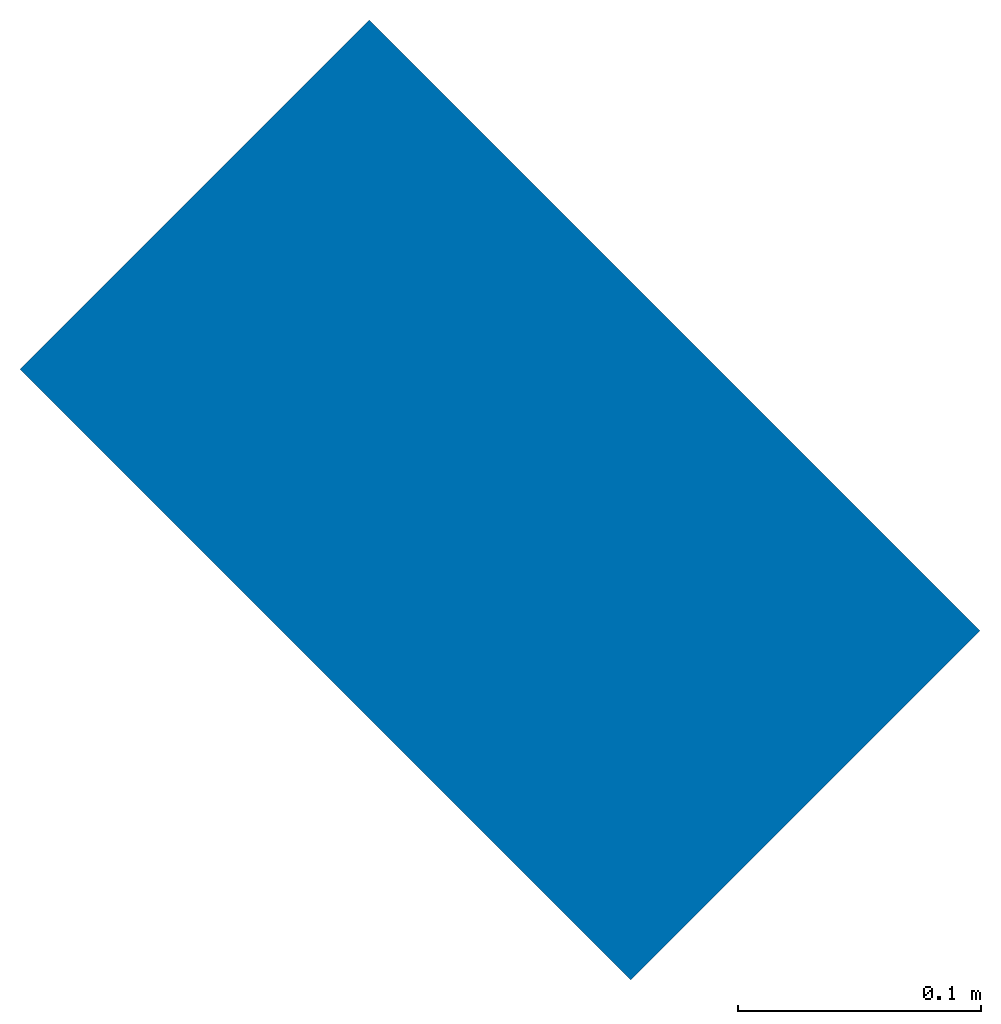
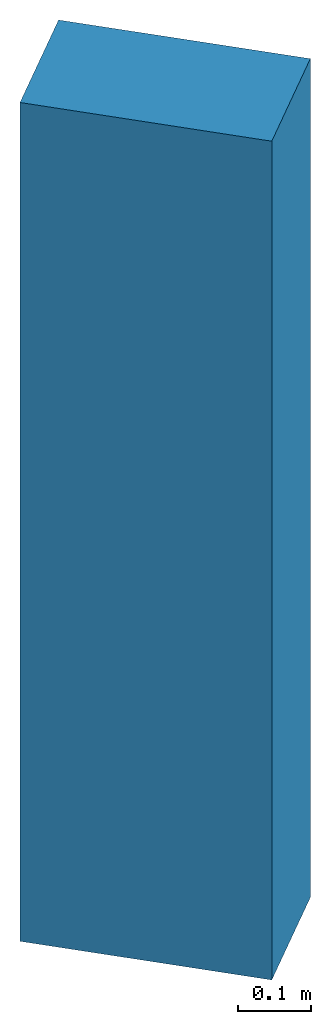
# One storey: 1 wall.
"""IFC2X3 building model written with IfcOpenShell, lengths in feet."""

from ifc_helpers import new_model, entity, si_unit, converted_unit, derived_unit, direction, frame, frame_2d, origin, place, context, subcontext, project, spatial, rectangle, extrude, material, layer, layer_set, layer_usage, type_object, element, save


model = new_model("IFC2X3")

# Units and contexts
model_context = context("Model", 3, precision=0.0001, world=origin(), true_north=direction((6.12303176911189e-17, 1.0)))
body_context = subcontext(model_context, "Body", "Model", "MODEL_VIEW")
ifc_project = project(units=[converted_unit("LENGTHUNIT", "FOOT", entity("IfcRatioMeasure", 0.3048), si_unit("LENGTHUNIT", "METRE"), dimensions=[1, 0, 0, 0, 0, 0, 0]), converted_unit("AREAUNIT", "SQUARE FOOT", entity("IfcRatioMeasure", 0.09290304), si_unit("AREAUNIT", "SQUARE_METRE"), dimensions=[2, 0, 0, 0, 0, 0, 0]), converted_unit("VOLUMEUNIT", "CUBIC FOOT", entity("IfcRatioMeasure", 0.028316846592), si_unit("VOLUMEUNIT", "CUBIC_METRE"), dimensions=[3, 0, 0, 0, 0, 0, 0]), converted_unit("PLANEANGLEUNIT", "DEGREE", entity("IfcRatioMeasure", 0.0174532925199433), si_unit("PLANEANGLEUNIT", "RADIAN"), dimensions=[0, 0, 0, 0, 0, 0, 0]), si_unit("MASSUNIT", "GRAM", prefix="KILO"), derived_unit("MASSDENSITYUNIT", [(si_unit("MASSUNIT", "GRAM", prefix="KILO"), 1), (si_unit("LENGTHUNIT", "METRE"), -3)]), si_unit("TIMEUNIT", "SECOND"), si_unit("FREQUENCYUNIT", "HERTZ"), si_unit("THERMODYNAMICTEMPERATUREUNIT", "DEGREE_CELSIUS"), derived_unit("THERMALTRANSMITTANCEUNIT", [(si_unit("MASSUNIT", "GRAM", prefix="KILO"), 1), (si_unit("THERMODYNAMICTEMPERATUREUNIT", "KELVIN"), -1), (si_unit("TIMEUNIT", "SECOND"), -3)]), derived_unit("VOLUMETRICFLOWRATEUNIT", [(si_unit("LENGTHUNIT", "METRE"), 3), (si_unit("TIMEUNIT", "SECOND"), -1)]), si_unit("ELECTRICCURRENTUNIT", "AMPERE"), si_unit("ELECTRICVOLTAGEUNIT", "VOLT"), si_unit("POWERUNIT", "WATT"), si_unit("FORCEUNIT", "NEWTON"), si_unit("ILLUMINANCEUNIT", "LUX"), si_unit("LUMINOUSFLUXUNIT", "LUMEN"), si_unit("LUMINOUSINTENSITYUNIT", "CANDELA"), derived_unit("USERDEFINED", [(si_unit("MASSUNIT", "GRAM", prefix="KILO"), -1), (si_unit("LENGTHUNIT", "METRE"), -2), (si_unit("TIMEUNIT", "SECOND"), 3), (si_unit("LUMINOUSFLUXUNIT", "LUMEN"), 1)]), derived_unit("LINEARVELOCITYUNIT", [(si_unit("LENGTHUNIT", "METRE"), 1), (si_unit("TIMEUNIT", "SECOND"), -1)]), si_unit("PRESSUREUNIT", "PASCAL"), derived_unit("USERDEFINED", [(si_unit("LENGTHUNIT", "METRE"), -2), (si_unit("MASSUNIT", "GRAM", prefix="KILO"), 1), (si_unit("TIMEUNIT", "SECOND"), -2)])], contexts=[model_context])

# Site, building, storey
site_placement = place(None, origin())
site = spatial("IfcSite", under=ifc_project, at=site_placement, Name="Default", CompositionType="ELEMENT")
building_placement = place(site_placement, origin())
building = spatial("IfcBuilding", under=site, at=building_placement, CompositionType="ELEMENT")
storey_placement = place(building_placement, origin())
storey = spatial("IfcBuildingStorey", under=building, at=storey_placement, Name="Level 1", CompositionType="ELEMENT", Elevation=0.0)

# Wall
ifc_material = material(Name="Default Wall")
ifc_layer = layer(ifc_material, 0.666666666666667)
ifc_layer_set = layer_set([ifc_layer], Name="Basic Wall:Generic - 8\"")
ifc_layer_usage = layer_usage(ifc_layer_set, "AXIS2", "NEGATIVE", 0.333333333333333)
wall_type = type_object("IfcWallType", Name="Basic Wall:Generic - 8\"", PredefinedType="STANDARD", material=ifc_layer_set)
wall_placement = place(storey_placement, frame((-6.14336611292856, 6.99475423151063, 0.0), z_axis=(0.0, 0.0, 1.0), x_axis=(-0.707106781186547, 0.707106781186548, 0.0)))
element("IfcWallStandardCase", 1, at=wall_placement, inside=storey, type_object=wall_type, material=ifc_layer_usage, Name="Basic Wall:Generic - 8\"", ObjectType="Basic Wall:Generic - 8\"", context=body_context, shape_type="SweptSolid", body=[
    extrude(rectangle(XDim=1.16666666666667, YDim=0.666666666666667, at=frame_2d((0.583333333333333, -1.66533453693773e-16), x_axis=(-1.0, 0.0))), origin(), (0.0, 0.0, 1.0), 4.58323744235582),
])

save(model, "model.ifc")
